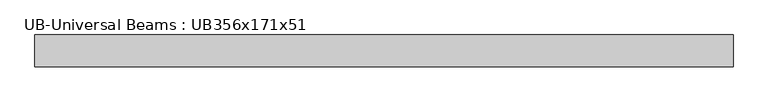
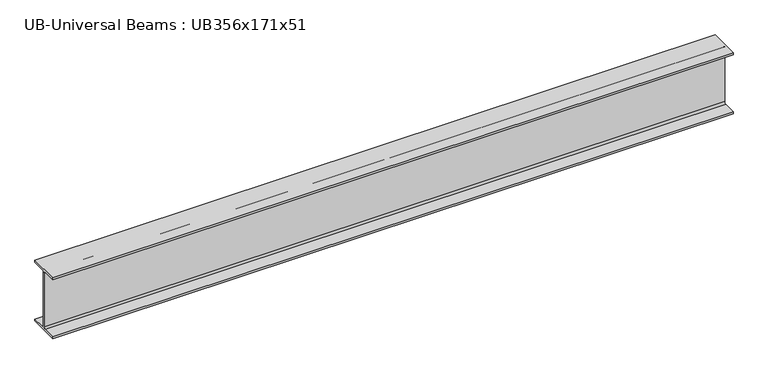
"""IFC4 building model written with IfcOpenShell, lengths in millimetres: beam geometry, UB-Universal Beams : UB356x171x51."""

from ifc_helpers import new_model, si_unit, point, frame, frame_2d, origin, place, context, project, spatial, polyline, circle_curve, trimmed, segment, composite_curve, outline, extrude, source, transform, mapped, element, save


def ub_universal_beams_ub356x171x51_c634c4a6(model_context):
    return source(origin(), model_context, "Body", "SweptSolid", [
        extrude(outline(composite_curve([segment(polyline([(85.75, -166.0), (85.75, -177.5), (-85.75, -177.5), (-85.75, -166.0), (-13.9, -166.0)]), True, "CONTINUOUS"), segment(trimmed(circle_curve(frame_2d((-13.9, -155.8)), 10.2), [point((-13.9, -166.0))], [point((-3.7, -155.8))], True, "CARTESIAN"), True, "CONTINUOUS"), segment(polyline([(-3.7, -155.8), (-3.7, 155.8)]), True, "CONTINUOUS"), segment(trimmed(circle_curve(frame_2d((-13.9, 155.8)), 10.2), [point((-3.7, 155.8))], [point((-13.9, 166.0))], True, "CARTESIAN"), True, "CONTINUOUS"), segment(polyline([(-13.9, 166.0), (-85.75, 166.0), (-85.75, 177.5), (85.75, 177.5), (85.75, 166.0), (13.9, 166.0)]), True, "CONTINUOUS"), segment(trimmed(circle_curve(frame_2d((13.9, 155.8)), 10.2), [point((13.9, 166.0))], [point((3.7, 155.8))], True, "CARTESIAN"), True, "CONTINUOUS"), segment(polyline([(3.7, 155.8), (3.7, -155.8)]), True, "CONTINUOUS"), segment(trimmed(circle_curve(frame_2d((13.9, -155.8)), 10.2), [point((3.7, -155.8))], [point((13.9, -166.0))], True, "CARTESIAN"), True, "CONTINUOUS"), segment(polyline([(13.9, -166.0), (85.75, -166.0)]), True, "CONTINUOUS")], self_intersect=False)), frame((-1877.8, 0.0, 0.0), z_axis=(1.0, 0.0, 0.0), x_axis=(0.0, 1.0, 0.0)), (0.0, 0.0, 1.0), 3755.6),
    ])


if __name__ == "__main__":
    model = new_model("IFC4")
    model_context = context("Model", 3, world=origin())
    ifc_project = project(units=[si_unit("LENGTHUNIT", "METRE", prefix="MILLI")], contexts=[model_context])
    site = spatial("IfcSite", under=ifc_project)
    building = spatial("IfcBuilding", under=site)
    placement = place(None, origin())
    ub_universal_beams_ub356x171x51_shape = ub_universal_beams_ub356x171x51_c634c4a6(model_context)
    element("IfcBeam", 1, ObjectType="UB-Universal Beams : UB356x171x51", at=placement, inside=building, context=model_context, shape_type="MappedRepresentation", body=[
        mapped(ub_universal_beams_ub356x171x51_shape, transform((0.0, 0.0, 0.0), x_axis=(1.0, 0.0, 0.0), y_axis=(0.0, 1.0, 0.0), z_axis=(0.0, 0.0, 1.0))),
    ])
    save(model, "model.ifc")
